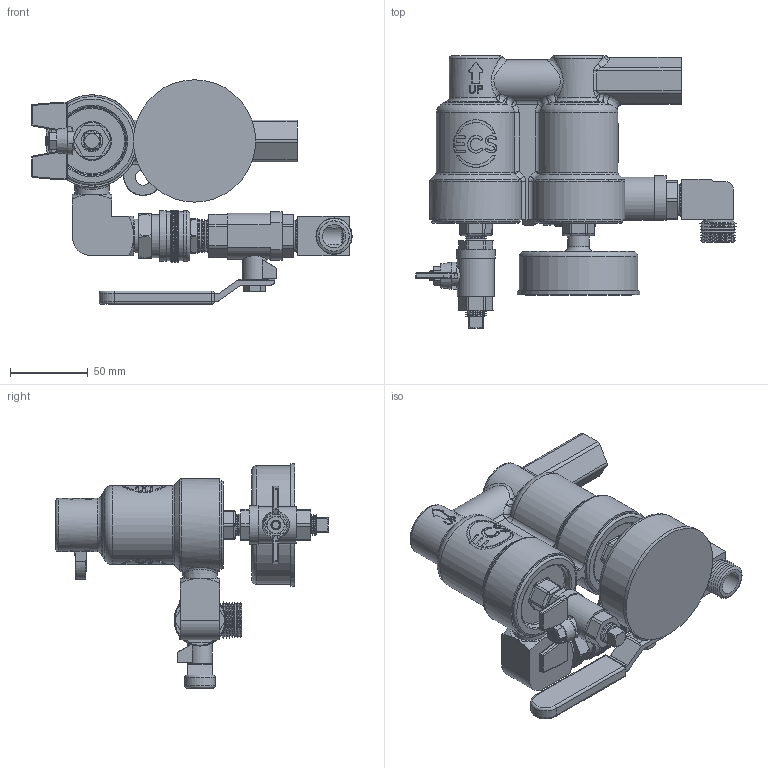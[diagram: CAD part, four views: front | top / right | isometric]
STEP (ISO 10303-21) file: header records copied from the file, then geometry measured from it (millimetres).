
FILE_DESCRIPTION(/* description */ (''),/* implementation_level */ '2;1');
FILE_NAME(/* name */ 'PAV-W.stp',/* time_stamp */ '2023-03-03T14:53:16-06:00',/* author */ ('atroll'),/* organization */ (''),/* preprocessor_version */ 'ST-DEVELOPER v19.2',/* originating_system */ 'Autodesk Inventor 2023',/* authorisation */ '');
FILE_SCHEMA (('AUTOMOTIVE_DESIGN { 1 0 10303 214 3 1 1 }'));
Products named in the file (1): PAV-W_Simplify
Bounding box: 206.14 x 175.16 x 144.41 mm (x, y, z)
Volume: 727429.9 mm3; surface area: 126373.6 mm2
Topology: 2 solids, 2 shells, 3677 faces, 8677 edges, 5037 vertices
Faces by surface type: plane 2447, cylinder 685, cone 242, bspline 224, sphere 43, torus 36
Full cylindrical faces by diameter (mm): 5.527 x9, 6.221 x8, 6.272 x1, 6.729 x1, 7.057 x10, 7.785 x9, 7.836 x2, 7.899 x1, 10.084 x1, 12.494 x1, 12.7 x2, 13.716 x1, 13.998 x1, 14.986 x1, 15.088 x2, 15.621 x1, 15.799 x3, 17.856 x2, 18.689 x1, 19.66 x1, 21.336 x4, 21.749 x1, 23.786 x1, 24.987 x1, 25.4 x2, 27.781 x1, 29.464 x2, 31.75 x2, 32.385 x2, 76.2 x1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
Entity records: 131507 total; most frequent: CARTESIAN_POINT 44305, DIRECTION 17695, ORIENTED_EDGE 17288, EDGE_CURVE 8644, AXIS2_PLACEMENT_3D 6368, VERTEX_POINT 5037, LINE 4959, VECTOR 4959
